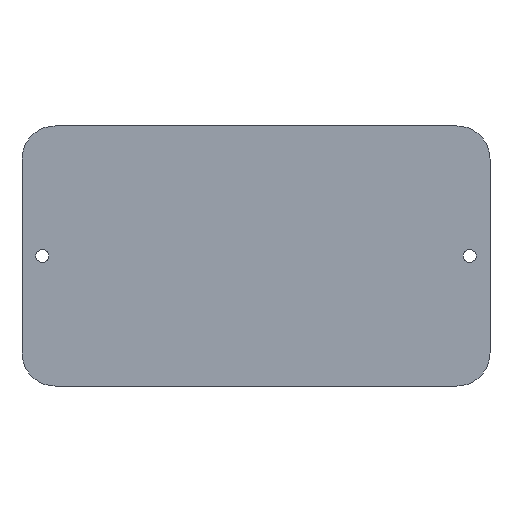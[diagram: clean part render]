
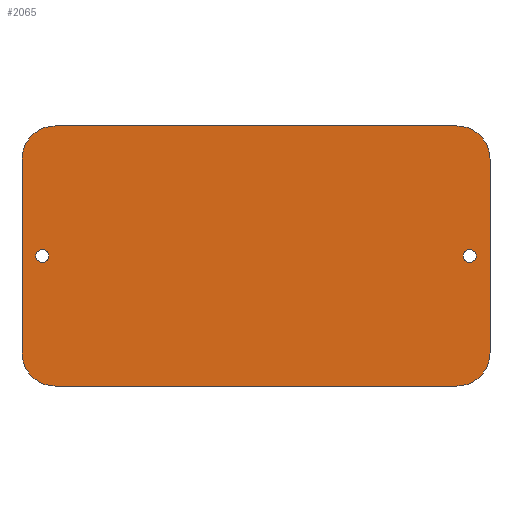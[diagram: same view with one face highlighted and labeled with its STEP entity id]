
A CAD part, front view. The second image highlights one B-rep face of the part: STEP entity #2065.
In plain terms, the highlighted planar face has unit normal (0, -1, 0).
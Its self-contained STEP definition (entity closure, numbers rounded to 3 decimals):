
#38 = CARTESIAN_POINT ( 'NONE',  ( 9., 0., 0. ) ) ;
#57 = CARTESIAN_POINT ( 'NONE',  ( 121.5, 0., -33.55 ) ) ;
#285 = AXIS2_PLACEMENT_3D ( 'NONE', #5781, #12874, #6798 ) ;
#608 = EDGE_LOOP ( 'NONE', ( #4186, #2403 ) ) ;
#788 = CIRCLE ( 'NONE', #10047, 9. ) ;
#795 = DIRECTION ( 'NONE',  ( 0., 0., 1. ) ) ;
#812 = AXIS2_PLACEMENT_3D ( 'NONE', #10653, #4585, #11640 ) ;
#921 = EDGE_LOOP ( 'NONE', ( #9581, #1923 ) ) ;
#994 = EDGE_CURVE ( 'NONE', #10220, #2421, #5953, .T. ) ;
#999 = DIRECTION ( 'NONE',  ( 0., 1., 0. ) ) ;
#1019 = VERTEX_POINT ( 'NONE', #6467 ) ;
#1136 = CIRCLE ( 'NONE', #7308, 1.75 ) ;
#1330 = CARTESIAN_POINT ( 'NONE',  ( 118., 0., -70.6 ) ) ;
#1557 = EDGE_LOOP ( 'NONE', ( #3314, #5827, #4876, #10576, #10180, #8489, #3186, #11259 ) ) ;
#1560 = CARTESIAN_POINT ( 'NONE',  ( 5.5, 0., -37.05 ) ) ;
#1644 = EDGE_CURVE ( 'NONE', #8762, #9549, #6271, .T. ) ;
#1670 = DIRECTION ( 'NONE',  ( 0., -1., 0. ) ) ;
#1757 = VERTEX_POINT ( 'NONE', #11694 ) ;
#1763 = AXIS2_PLACEMENT_3D ( 'NONE', #11191, #5472, #9393 ) ;
#1923 = ORIENTED_EDGE ( 'NONE', *, *, #4201, .T. ) ;
#2065 = ADVANCED_FACE ( 'NONE', ( #11119, #3921, #2296 ), #8784, .F. ) ;
#2296 = FACE_OUTER_BOUND ( 'NONE', #1557, .T. ) ;
#2403 = ORIENTED_EDGE ( 'NONE', *, *, #994, .T. ) ;
#2421 = VERTEX_POINT ( 'NONE', #7542 ) ;
#2773 = CARTESIAN_POINT ( 'NONE',  ( 0., 0., 0. ) ) ;
#3032 = CARTESIAN_POINT ( 'NONE',  ( 5.5, 0., -35.3 ) ) ;
#3186 = ORIENTED_EDGE ( 'NONE', *, *, #1644, .F. ) ;
#3314 = ORIENTED_EDGE ( 'NONE', *, *, #7844, .F. ) ;
#3420 = DIRECTION ( 'NONE',  ( 0., -1., 0. ) ) ;
#3590 = EDGE_CURVE ( 'NONE', #7361, #1757, #4049, .T. ) ;
#3608 = CARTESIAN_POINT ( 'NONE',  ( 9., 0., -9. ) ) ;
#3794 = DIRECTION ( 'NONE',  ( 0., 0., 1. ) ) ;
#3921 = FACE_BOUND ( 'NONE', #608, .T. ) ;
#4018 = DIRECTION ( 'NONE',  ( 0., 0., 1. ) ) ;
#4049 = CIRCLE ( 'NONE', #285, 1.75 ) ;
#4053 = CARTESIAN_POINT ( 'NONE',  ( 0., 0., -9. ) ) ;
#4186 = ORIENTED_EDGE ( 'NONE', *, *, #9970, .T. ) ;
#4201 = EDGE_CURVE ( 'NONE', #1757, #7361, #1136, .T. ) ;
#4282 = CARTESIAN_POINT ( 'NONE',  ( 127., 0., 0. ) ) ;
#4585 = DIRECTION ( 'NONE',  ( 0., -1., 0. ) ) ;
#4586 = VECTOR ( 'NONE', #795, 1000. ) ;
#4609 = DIRECTION ( 'NONE',  ( 0., 0., 1. ) ) ;
#4873 = CIRCLE ( 'NONE', #5410, 1.75 ) ;
#4876 = ORIENTED_EDGE ( 'NONE', *, *, #10317, .F. ) ;
#5000 = LINE ( 'NONE', #11638, #5716 ) ;
#5182 = VERTEX_POINT ( 'NONE', #4053 ) ;
#5410 = AXIS2_PLACEMENT_3D ( 'NONE', #3032, #10046, #4018 ) ;
#5472 = DIRECTION ( 'NONE',  ( 0., 1., 0. ) ) ;
#5584 = DIRECTION ( 'NONE',  ( -1., 0., 0. ) ) ;
#5608 = EDGE_CURVE ( 'NONE', #5828, #8675, #11428, .T. ) ;
#5703 = CIRCLE ( 'NONE', #5914, 9. ) ;
#5716 = VECTOR ( 'NONE', #5584, 1000. ) ;
#5781 = CARTESIAN_POINT ( 'NONE',  ( 121.5, 0., -35.3 ) ) ;
#5827 = ORIENTED_EDGE ( 'NONE', *, *, #9049, .T. ) ;
#5828 = VERTEX_POINT ( 'NONE', #7961 ) ;
#5914 = AXIS2_PLACEMENT_3D ( 'NONE', #7586, #1670, #8603 ) ;
#5953 = CIRCLE ( 'NONE', #1763, 1.75 ) ;
#6195 = CIRCLE ( 'NONE', #812, 9. ) ;
#6206 = EDGE_CURVE ( 'NONE', #5828, #9549, #6195, .T. ) ;
#6271 = LINE ( 'NONE', #12309, #10077 ) ;
#6467 = CARTESIAN_POINT ( 'NONE',  ( 9., 0., -70.6 ) ) ;
#6690 = CARTESIAN_POINT ( 'NONE',  ( 0., 0., -70.6 ) ) ;
#6798 = DIRECTION ( 'NONE',  ( 0., 0., 1. ) ) ;
#6901 = CARTESIAN_POINT ( 'NONE',  ( 121.5, 0., -35.3 ) ) ;
#7249 = AXIS2_PLACEMENT_3D ( 'NONE', #3608, #10676, #4609 ) ;
#7257 = DIRECTION ( 'NONE',  ( 1., 0., 0. ) ) ;
#7308 = AXIS2_PLACEMENT_3D ( 'NONE', #6901, #999, #7903 ) ;
#7361 = VERTEX_POINT ( 'NONE', #57 ) ;
#7542 = CARTESIAN_POINT ( 'NONE',  ( 5.5, 0., -33.55 ) ) ;
#7586 = CARTESIAN_POINT ( 'NONE',  ( 9., 0., -61.6 ) ) ;
#7714 = CARTESIAN_POINT ( 'NONE',  ( 0., 0., -61.6 ) ) ;
#7844 = EDGE_CURVE ( 'NONE', #8016, #5182, #8673, .T. ) ;
#7872 = EDGE_CURVE ( 'NONE', #11237, #8675, #788, .T. ) ;
#7903 = DIRECTION ( 'NONE',  ( 0., 0., 1. ) ) ;
#7961 = CARTESIAN_POINT ( 'NONE',  ( 127., 0., -9. ) ) ;
#8016 = VERTEX_POINT ( 'NONE', #7714 ) ;
#8489 = ORIENTED_EDGE ( 'NONE', *, *, #6206, .T. ) ;
#8603 = DIRECTION ( 'NONE',  ( 0., 0., 1. ) ) ;
#8673 = LINE ( 'NONE', #6690, #4586 ) ;
#8675 = VERTEX_POINT ( 'NONE', #11868 ) ;
#8762 = VERTEX_POINT ( 'NONE', #38 ) ;
#8784 = PLANE ( 'NONE',  #12675 ) ;
#8806 = CARTESIAN_POINT ( 'NONE',  ( 118., 0., 0. ) ) ;
#9049 = EDGE_CURVE ( 'NONE', #8016, #1019, #5703, .T. ) ;
#9076 = EDGE_CURVE ( 'NONE', #8762, #5182, #12182, .T. ) ;
#9393 = DIRECTION ( 'NONE',  ( 0., 0., 1. ) ) ;
#9441 = CARTESIAN_POINT ( 'NONE',  ( 118., 0., -61.6 ) ) ;
#9549 = VERTEX_POINT ( 'NONE', #8806 ) ;
#9581 = ORIENTED_EDGE ( 'NONE', *, *, #3590, .T. ) ;
#9814 = DIRECTION ( 'NONE',  ( 0., 1., 0. ) ) ;
#9970 = EDGE_CURVE ( 'NONE', #2421, #10220, #4873, .T. ) ;
#9982 = VECTOR ( 'NONE', #11358, 1000. ) ;
#10046 = DIRECTION ( 'NONE',  ( 0., 1., 0. ) ) ;
#10047 = AXIS2_PLACEMENT_3D ( 'NONE', #9441, #3420, #10475 ) ;
#10077 = VECTOR ( 'NONE', #7257, 1000. ) ;
#10180 = ORIENTED_EDGE ( 'NONE', *, *, #5608, .F. ) ;
#10220 = VERTEX_POINT ( 'NONE', #1560 ) ;
#10317 = EDGE_CURVE ( 'NONE', #11237, #1019, #5000, .T. ) ;
#10475 = DIRECTION ( 'NONE',  ( 0., 0., 1. ) ) ;
#10576 = ORIENTED_EDGE ( 'NONE', *, *, #7872, .T. ) ;
#10653 = CARTESIAN_POINT ( 'NONE',  ( 118., 0., -9. ) ) ;
#10676 = DIRECTION ( 'NONE',  ( 0., -1., 0. ) ) ;
#11119 = FACE_BOUND ( 'NONE', #921, .T. ) ;
#11191 = CARTESIAN_POINT ( 'NONE',  ( 5.5, 0., -35.3 ) ) ;
#11237 = VERTEX_POINT ( 'NONE', #1330 ) ;
#11259 = ORIENTED_EDGE ( 'NONE', *, *, #9076, .T. ) ;
#11358 = DIRECTION ( 'NONE',  ( 0., 0., -1. ) ) ;
#11428 = LINE ( 'NONE', #4282, #9982 ) ;
#11638 = CARTESIAN_POINT ( 'NONE',  ( 127., 0., -70.6 ) ) ;
#11640 = DIRECTION ( 'NONE',  ( 0., 0., 1. ) ) ;
#11694 = CARTESIAN_POINT ( 'NONE',  ( 121.5, 0., -37.05 ) ) ;
#11868 = CARTESIAN_POINT ( 'NONE',  ( 127., 0., -61.6 ) ) ;
#12182 = CIRCLE ( 'NONE', #7249, 9. ) ;
#12309 = CARTESIAN_POINT ( 'NONE',  ( 0., 0., 0. ) ) ;
#12675 = AXIS2_PLACEMENT_3D ( 'NONE', #2773, #9814, #3794 ) ;
#12874 = DIRECTION ( 'NONE',  ( 0., 1., 0. ) ) ;
